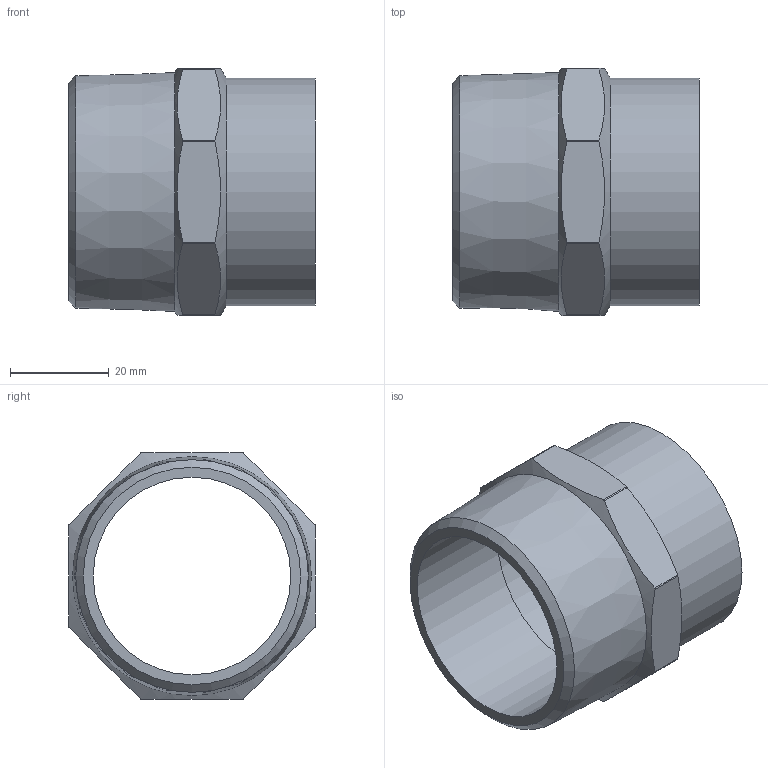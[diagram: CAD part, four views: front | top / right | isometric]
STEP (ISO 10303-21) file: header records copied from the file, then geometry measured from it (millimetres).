
FILE_DESCRIPTION((''),'2;1');
FILE_NAME('\\Lg50001\Groups\SANHA Legnica\Engineering\Public\RYSUNKI\SANHA POLSKA\4243G\step\14243_42-112(3).stp','2008-08-26T10:25:19',('pajchrowski'),(''),'Autodesk Inventor 2008','Autodesk Inventor 2008','');
FILE_SCHEMA(('AUTOMOTIVE_DESIGN { 1 0 10303 214 1 1 1 1 }'));
Length unit declared in the file: millimetre
Products named in the file (1): 14243_42-112(3)
Bounding box: 50 x 50 x 50 mm (x, y, z)
Volume: 23097.7 mm3; surface area: 15109.8 mm2
Topology: 1 solids, 1 shells, 26 faces, 66 edges, 43 vertices
Faces by surface type: plane 11, cylinder 11, cone 4
Full cylindrical faces by diameter (mm): 40 x1, 42 x1, 46 x1
Entity records: 752 total; most frequent: CARTESIAN_POINT 157, DIRECTION 120, ORIENTED_EDGE 114, EDGE_CURVE 57, AXIS2_PLACEMENT_3D 52, VERTEX_POINT 41, EDGE_LOOP 36, FACE_OUTER_BOUND 26
